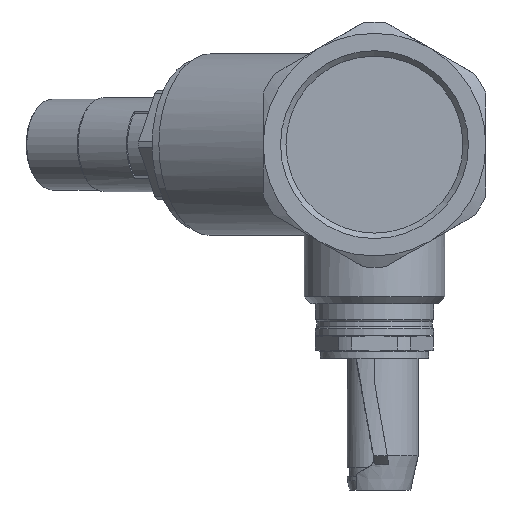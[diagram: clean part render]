
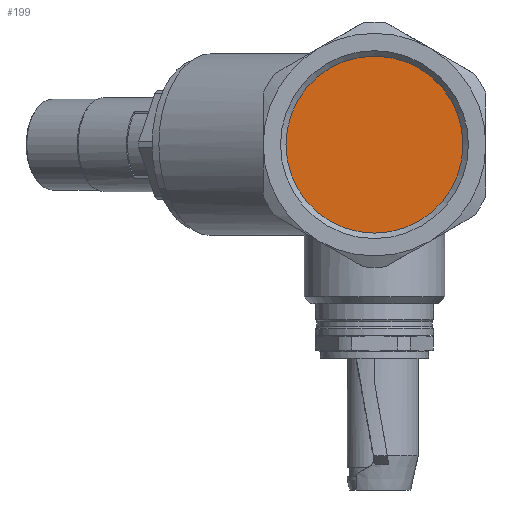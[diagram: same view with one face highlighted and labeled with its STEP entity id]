
A CAD part, left-side view. The second image highlights one B-rep face of the part: STEP entity #199.
In plain terms, the highlighted planar face has unit normal (-1, 0, 0).
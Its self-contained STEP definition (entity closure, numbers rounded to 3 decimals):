
#183=CARTESIAN_POINT('',(-13.,0.,0.0));
#184=DIRECTION('',(-1.0,0.0,0.0));
#185=DIRECTION('',(0.0,0.0,-1.0));
#186=AXIS2_PLACEMENT_3D('',#183,#184,#185);
#187=PLANE('',#186);
#188=CARTESIAN_POINT('',(-13.,19.476,0.0));
#189=VERTEX_POINT('',#188);
#190=CARTESIAN_POINT('',(-13.,0.0,0.0));
#191=DIRECTION('',(-1.0,0.0,0.0));
#192=DIRECTION('',(0.0,1.0,0.0));
#193=AXIS2_PLACEMENT_3D('',#190,#191,#192);
#194=CIRCLE('',#193,19.476);
#195=EDGE_CURVE('',#189,#189,#194,.T.);
#196=ORIENTED_EDGE('',*,*,#195,.T.);
#197=EDGE_LOOP('',(#196));
#198=FACE_OUTER_BOUND('',#197,.T.);
#199=ADVANCED_FACE('',(#198),#187,.T.);
